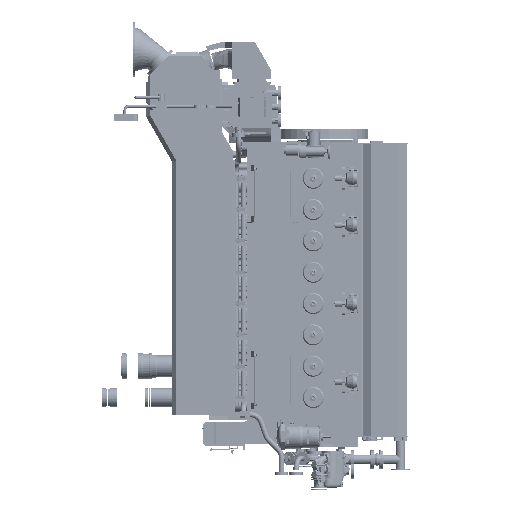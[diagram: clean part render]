
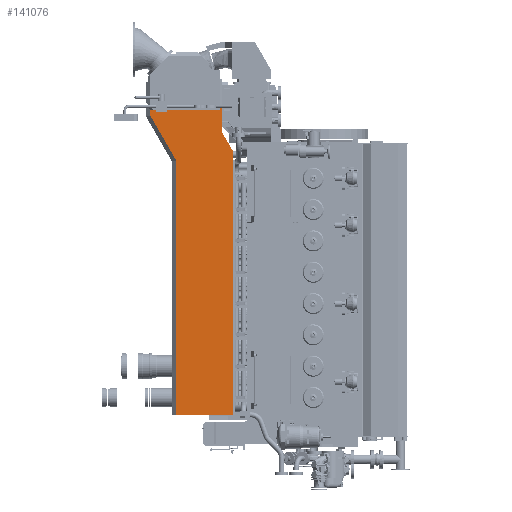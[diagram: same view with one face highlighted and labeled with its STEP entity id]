
A CAD part, left-side view. The second image highlights one B-rep face of the part: STEP entity #141076.
In plain terms, the highlighted planar face has unit normal (-1, 0, 0).
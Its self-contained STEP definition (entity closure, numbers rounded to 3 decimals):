
#139691=DIRECTION('',(0.,0.,-1.));
#139692=VECTOR('',#139691,29.002);
#139693=CARTESIAN_POINT('',(-1090.5,1385.,970.5));
#139694=LINE('',#139693,#139692);
#139695=DIRECTION('',(0.,-1.,0.));
#139696=VECTOR('',#139695,20.);
#139697=CARTESIAN_POINT('',(-1090.5,1385.,970.5));
#139698=LINE('',#139697,#139696);
#139699=DIRECTION('',(0.,0.,-1.));
#139700=VECTOR('',#139699,327.372);
#139701=CARTESIAN_POINT('',(-1090.5,1365.,970.5));
#139702=LINE('',#139701,#139700);
#139703=DIRECTION('',(0.,-0.5,-0.866));
#139704=VECTOR('',#139703,320.);
#139705=CARTESIAN_POINT('',(-1090.5,1365.,643.128));
#139706=LINE('',#139705,#139704);
#139707=DIRECTION('',(0.,0.,-1.));
#139708=VECTOR('',#139707,3622.3);
#139709=CARTESIAN_POINT('',(-1090.5,1205.,366.));
#139710=LINE('',#139709,#139708);
#139711=DIRECTION('',(0.,-1.,0.));
#139712=VECTOR('',#139711,2.698);
#139713=CARTESIAN_POINT('',(-1090.5,1986.921,238.5));
#139714=LINE('',#139713,#139712);
#139715=DIRECTION('',(0.,-0.5,-0.866));
#139716=VECTOR('',#139715,718.681);
#139717=CARTESIAN_POINT('',(-1090.5,2343.564,860.896));
#139718=LINE('',#139717,#139716);
#139719=DIRECTION('',(0.,0.,-1.));
#139720=VECTOR('',#139719,84.282);
#139721=CARTESIAN_POINT('',(-1090.5,2343.564,945.178));
#139722=LINE('',#139721,#139720);
#139723=DIRECTION('',(0.,-0.733,-0.68));
#139724=VECTOR('',#139723,5.41);
#139725=CARTESIAN_POINT('',(-1090.5,2343.564,945.178));
#139726=LINE('',#139725,#139724);
#139727=DIRECTION('',(0.,-1.,0.));
#139728=VECTOR('',#139727,954.599);
#139729=CARTESIAN_POINT('',(-1090.5,2339.599,941.498));
#139730=LINE('',#139729,#139728);
#140058=DIRECTION('',(0.,0.,-1.));
#140059=VECTOR('',#140058,3494.8);
#140060=CARTESIAN_POINT('',(-1090.5,1986.921,238.5));
#140061=LINE('',#140060,#140059);
#140146=DIRECTION('',(0.,1.,0.));
#140147=VECTOR('',#140146,781.921);
#140148=CARTESIAN_POINT('',(-1090.5,1205.,-3256.3));
#140149=LINE('',#140148,#140147);
#140433=CARTESIAN_POINT('',(-1090.5,1365.,643.128));
#140434=CARTESIAN_POINT('',(-1090.5,1205.,366.));
#140435=VERTEX_POINT('',#140433);
#140436=VERTEX_POINT('',#140434);
#140462=CARTESIAN_POINT('',(-1090.5,1986.921,-3256.3));
#140464=VERTEX_POINT('',#140462);
#140479=CARTESIAN_POINT('',(-1090.5,1205.,-3256.3));
#140480=VERTEX_POINT('',#140479);
#140585=CARTESIAN_POINT('',(-1090.5,2343.564,860.896));
#140586=CARTESIAN_POINT('',(-1090.5,1984.223,238.5));
#140587=VERTEX_POINT('',#140585);
#140588=VERTEX_POINT('',#140586);
#140589=CARTESIAN_POINT('',(-1090.5,1986.921,238.5));
#140590=VERTEX_POINT('',#140589);
#140595=CARTESIAN_POINT('',(-1090.5,1365.,970.5));
#140596=VERTEX_POINT('',#140595);
#140620=CARTESIAN_POINT('',(-1090.5,1385.,970.5));
#140622=VERTEX_POINT('',#140620);
#140623=CARTESIAN_POINT('',(-1090.5,1385.,941.498));
#140624=VERTEX_POINT('',#140623);
#140625=CARTESIAN_POINT('',(-1090.5,2343.564,945.178));
#140626=CARTESIAN_POINT('',(-1090.5,2339.599,941.498));
#140627=VERTEX_POINT('',#140625);
#140628=VERTEX_POINT('',#140626);
#141047=CARTESIAN_POINT('',(-1090.5,2045.42,970.5));
#141048=DIRECTION('',(1.,0.,0.));
#141049=DIRECTION('',(0.,0.,-1.));
#141050=AXIS2_PLACEMENT_3D('',#141047,#141048,#141049);
#141051=PLANE('',#141050);
#141052=ORIENTED_EDGE('',*,*,#141033,.F.);
#141054=ORIENTED_EDGE('',*,*,#141053,.T.);
#141056=ORIENTED_EDGE('',*,*,#141055,.T.);
#141058=ORIENTED_EDGE('',*,*,#141057,.T.);
#141060=ORIENTED_EDGE('',*,*,#141059,.T.);
#141062=ORIENTED_EDGE('',*,*,#141061,.T.);
#141064=ORIENTED_EDGE('',*,*,#141063,.F.);
#141066=ORIENTED_EDGE('',*,*,#141065,.T.);
#141068=ORIENTED_EDGE('',*,*,#141067,.F.);
#141070=ORIENTED_EDGE('',*,*,#141069,.F.);
#141072=ORIENTED_EDGE('',*,*,#141071,.T.);
#141073=ORIENTED_EDGE('',*,*,#141012,.T.);
#141074=EDGE_LOOP('',(#141052,#141054,#141056,#141058,#141060,#141062,#141064,
#141066,#141068,#141070,#141072,#141073));
#141075=FACE_OUTER_BOUND('',#141074,.F.);
#141076=ADVANCED_FACE('',(#141075),#141051,.F.);
#141012=EDGE_CURVE('',#140628,#140624,#139730,.T.);
#141033=EDGE_CURVE('',#140622,#140624,#139694,.T.);
#141053=EDGE_CURVE('',#140622,#140596,#139698,.T.);
#141055=EDGE_CURVE('',#140596,#140435,#139702,.T.);
#141057=EDGE_CURVE('',#140435,#140436,#139706,.T.);
#141059=EDGE_CURVE('',#140436,#140480,#139710,.T.);
#141061=EDGE_CURVE('',#140480,#140464,#140149,.T.);
#141063=EDGE_CURVE('',#140590,#140464,#140061,.T.);
#141065=EDGE_CURVE('',#140590,#140588,#139714,.T.);
#141067=EDGE_CURVE('',#140587,#140588,#139718,.T.);
#141069=EDGE_CURVE('',#140627,#140587,#139722,.T.);
#141071=EDGE_CURVE('',#140627,#140628,#139726,.T.);
